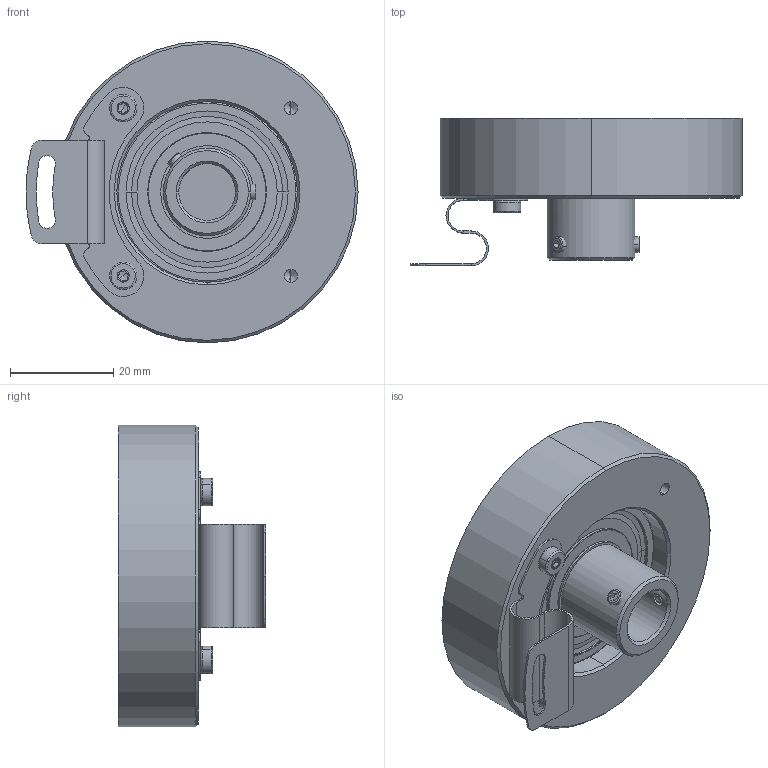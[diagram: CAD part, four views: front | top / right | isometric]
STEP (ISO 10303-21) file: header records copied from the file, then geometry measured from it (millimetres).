
FILE_DESCRIPTION (( 'STEP AP214' ), '1' );
FILE_NAME ('drawing ucd-xbt0-q5b-n.STEP', '2017-03-22T08:33:13', ( '' ), ( '' ), 'SwSTEP 2.0', 'SolidWorks 2015', '' );
FILE_SCHEMA (( 'AUTOMOTIVE_DESIGN' ));
Length unit declared in the file: millimetre
Products named in the file (1): drawing ucd-xbt0-q5b-n
Bounding box: 64.35 x 28.6 x 58.5 mm (x, y, z)
Volume: 36629 mm3; surface area: 21215.3 mm2
Topology: 20 solids, 20 shells, 477 faces, 1091 edges, 611 vertices
Faces by surface type: cone 190, cylinder 149, plane 68, bspline 50, torus 20
Entity records: 19793 total; most frequent: CARTESIAN_POINT 3880, DIRECTION 2367, ORIENTED_EDGE 2058, EDGE_CURVE 1029, AXIS2_PLACEMENT_3D 986, VERTEX_POINT 611, CIRCLE 558, EDGE_LOOP 514
